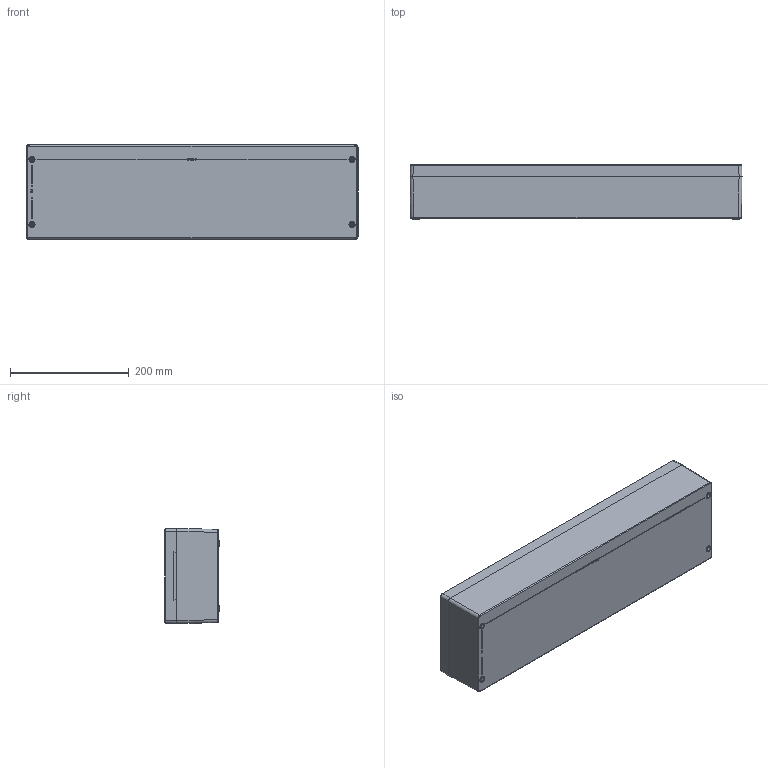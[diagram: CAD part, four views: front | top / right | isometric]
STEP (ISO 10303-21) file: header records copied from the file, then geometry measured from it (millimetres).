
FILE_DESCRIPTION (( 'STEP AP203' ), '1' );
FILE_NAME ('BPG 11.STEP', '2014-06-13T09:08:52', ( '' ), ( '' ), 'SwSTEP 2.0', 'SolidWorks 2014', '' );
FILE_SCHEMA (( 'CONFIG_CONTROL_DESIGN' ));
Length unit declared in the file: millimetre
Products named in the file (3): BPG11 Body; BPG11 Lid; BPG 11
Assembly tree (2 placements, depth 2):
  BPG 11
    BPG11 Body
    BPG11 Lid
Bounding box: 560 x 91.2 x 160 mm (x, y, z)
Volume: 1561064.4 mm3; surface area: 627645.2 mm2
Topology: 2 solids, 2 shells, 551 faces, 1495 edges, 970 vertices
Faces by surface type: plane 221, cylinder 134, bspline 108, cone 85, torus 3
Entity records: 21768 total; most frequent: CARTESIAN_POINT 8327, ORIENTED_EDGE 2926, DIRECTION 2431, EDGE_CURVE 1463, VERTEX_POINT 970, VECTOR 843, LINE 843, AXIS2_PLACEMENT_3D 794
